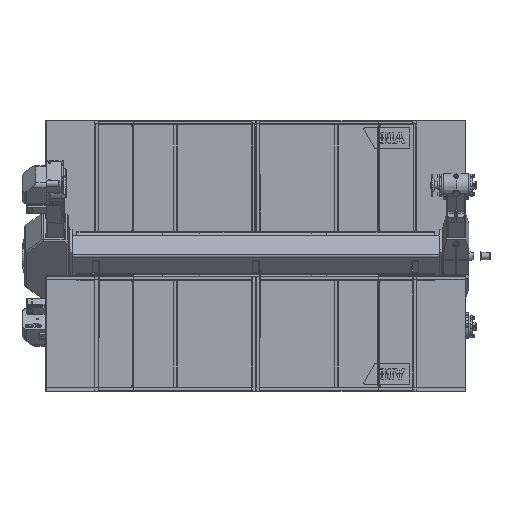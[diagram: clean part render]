
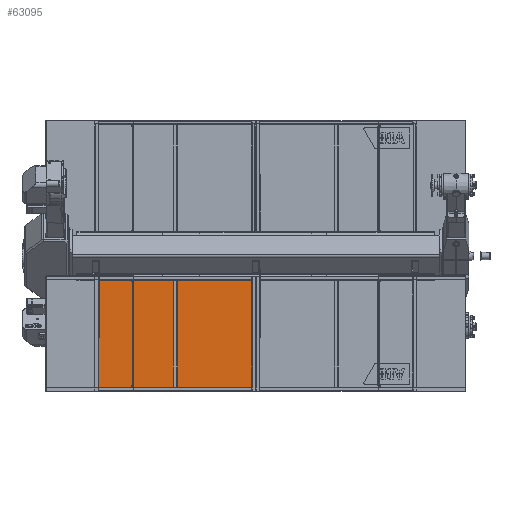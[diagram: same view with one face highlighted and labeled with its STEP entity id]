
A CAD part, left-side view. The second image highlights one B-rep face of the part: STEP entity #63095.
In plain terms, the highlighted planar face has unit normal (-1, 0, 0.002).
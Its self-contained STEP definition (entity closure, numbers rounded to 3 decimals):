
#3323=LINE('',#100845,#8268);
#4655=LINE('',#105473,#9600);
#4657=LINE('',#105477,#9602);
#4665=LINE('',#105538,#9610);
#4671=LINE('',#105548,#9616);
#4678=LINE('',#105562,#9623);
#4679=LINE('',#105563,#9624);
#4680=LINE('',#105565,#9625);
#4681=LINE('',#105567,#9626);
#4682=LINE('',#105568,#9627);
#4683=LINE('',#105569,#9628);
#4684=LINE('',#105570,#9629);
#4685=LINE('',#105573,#9630);
#4686=LINE('',#105575,#9631);
#4687=LINE('',#105577,#9632);
#4688=LINE('',#105578,#9633);
#8268=VECTOR('',#74826,1000.);
#9600=VECTOR('',#78088,1000.);
#9602=VECTOR('',#78090,1000.);
#9610=VECTOR('',#78108,1000.);
#9616=VECTOR('',#78114,1000.);
#9623=VECTOR('',#78127,1000.);
#9624=VECTOR('',#78128,1000.);
#9625=VECTOR('',#78129,1000.);
#9626=VECTOR('',#78130,1000.);
#9627=VECTOR('',#78131,1000.);
#9628=VECTOR('',#78132,1000.);
#9629=VECTOR('',#78133,1000.);
#9630=VECTOR('',#78134,1000.);
#9631=VECTOR('',#78135,1000.);
#9632=VECTOR('',#78136,1000.);
#9633=VECTOR('',#78137,1000.);
#13377=FACE_BOUND('',#18832,.T.);
#14992=FACE_OUTER_BOUND('',#18831,.T.);
#18831=EDGE_LOOP('',(#45180,#45181,#45182,#45183,#45184,#45185,#45186,#45187,
#45188,#45189,#45190,#45191));
#18832=EDGE_LOOP('',(#45192,#45193,#45194,#45195));
#25034=VERTEX_POINT('',#100842);
#25035=VERTEX_POINT('',#100844);
#26079=VERTEX_POINT('',#105470);
#26080=VERTEX_POINT('',#105472);
#26081=VERTEX_POINT('',#105474);
#26082=VERTEX_POINT('',#105476);
#26092=VERTEX_POINT('',#105534);
#26093=VERTEX_POINT('',#105535);
#26094=VERTEX_POINT('',#105537);
#26098=VERTEX_POINT('',#105546);
#26103=VERTEX_POINT('',#105564);
#26104=VERTEX_POINT('',#105566);
#26105=VERTEX_POINT('',#105571);
#26106=VERTEX_POINT('',#105572);
#26107=VERTEX_POINT('',#105574);
#26108=VERTEX_POINT('',#105576);
#31220=EDGE_CURVE('',#25034,#25035,#3323,.T.);
#32922=EDGE_CURVE('',#26079,#26080,#4655,.T.);
#32924=EDGE_CURVE('',#26081,#26082,#4657,.T.);
#32936=EDGE_CURVE('',#26093,#26094,#4665,.T.);
#32942=EDGE_CURVE('',#26098,#26092,#4671,.T.);
#32949=EDGE_CURVE('',#25034,#26080,#4678,.T.);
#32950=EDGE_CURVE('',#26079,#26094,#4679,.T.);
#32951=EDGE_CURVE('',#26103,#26093,#4680,.T.);
#32952=EDGE_CURVE('',#26103,#26104,#4681,.T.);
#32953=EDGE_CURVE('',#26104,#26092,#4682,.T.);
#32954=EDGE_CURVE('',#26098,#26082,#4683,.T.);
#32955=EDGE_CURVE('',#25035,#26081,#4684,.T.);
#32956=EDGE_CURVE('',#26105,#26106,#4685,.T.);
#32957=EDGE_CURVE('',#26106,#26107,#4686,.T.);
#32958=EDGE_CURVE('',#26108,#26107,#4687,.T.);
#32959=EDGE_CURVE('',#26108,#26105,#4688,.T.);
#45180=ORIENTED_EDGE('',*,*,#31220,.F.);
#45181=ORIENTED_EDGE('',*,*,#32949,.T.);
#45182=ORIENTED_EDGE('',*,*,#32922,.F.);
#45183=ORIENTED_EDGE('',*,*,#32950,.T.);
#45184=ORIENTED_EDGE('',*,*,#32936,.F.);
#45185=ORIENTED_EDGE('',*,*,#32951,.F.);
#45186=ORIENTED_EDGE('',*,*,#32952,.T.);
#45187=ORIENTED_EDGE('',*,*,#32953,.T.);
#45188=ORIENTED_EDGE('',*,*,#32942,.F.);
#45189=ORIENTED_EDGE('',*,*,#32954,.T.);
#45190=ORIENTED_EDGE('',*,*,#32924,.F.);
#45191=ORIENTED_EDGE('',*,*,#32955,.F.);
#45192=ORIENTED_EDGE('',*,*,#32956,.T.);
#45193=ORIENTED_EDGE('',*,*,#32957,.T.);
#45194=ORIENTED_EDGE('',*,*,#32958,.F.);
#45195=ORIENTED_EDGE('',*,*,#32959,.T.);
#57002=PLANE('',#67668);
#63095=ADVANCED_FACE('',(#14992,#13377),#57002,.T.);
#67668=AXIS2_PLACEMENT_3D('',#105561,#78125,#78126);
#74826=DIRECTION('',(0.,1.,0.));
#78088=DIRECTION('',(0.,1.,0.));
#78090=DIRECTION('',(0.,1.,0.));
#78108=DIRECTION('',(0.,-1.,0.));
#78114=DIRECTION('',(0.,-1.,0.));
#78125=DIRECTION('center_axis',(-1.,0.,
0.002));
#78126=DIRECTION('ref_axis',(0.,1.,0.));
#78127=DIRECTION('',(-0.002,0.,-1.));
#78128=DIRECTION('',(0.002,0.,1.));
#78129=DIRECTION('',(0.002,0.,1.));
#78130=DIRECTION('',(0.,1.,0.));
#78131=DIRECTION('',(0.002,0.,1.));
#78132=DIRECTION('',(-0.002,0.,-1.));
#78133=DIRECTION('',(-0.002,0.,-1.));
#78134=DIRECTION('',(-0.002,0.,-1.));
#78135=DIRECTION('',(0.,1.,0.));
#78136=DIRECTION('',(-0.002,0.,-1.));
#78137=DIRECTION('',(0.,-1.,0.));
#100842=CARTESIAN_POINT('',(538.108,-1742.5,-1978.321));
#100844=CARTESIAN_POINT('',(538.108,-247.5,-1978.321));
#100845=CARTESIAN_POINT('',(538.108,-1799.649,-1978.321));
#105470=CARTESIAN_POINT('',(538.1,-1747.7,-1983.121));
#105472=CARTESIAN_POINT('',(538.1,-1742.5,-1983.121));
#105473=CARTESIAN_POINT('',(538.1,-1772.5,-1983.121));
#105474=CARTESIAN_POINT('',(538.1,-247.5,-1983.121));
#105476=CARTESIAN_POINT('',(538.1,-242.3,-1983.121));
#105477=CARTESIAN_POINT('',(538.1,-1772.5,-1983.121));
#105534=CARTESIAN_POINT('',(539.959,-247.5,-918.122));
#105535=CARTESIAN_POINT('',(539.959,-1742.5,-918.122));
#105537=CARTESIAN_POINT('',(539.959,-1747.7,-918.122));
#105538=CARTESIAN_POINT('',(539.959,-1772.5,-918.122));
#105546=CARTESIAN_POINT('',(539.959,-242.3,-918.122));
#105548=CARTESIAN_POINT('',(539.959,-1772.5,-918.122));
#105561=CARTESIAN_POINT('Origin',(539.959,-1772.5,-918.122));
#105562=CARTESIAN_POINT('',(538.108,-1742.5,-1978.321));
#105563=CARTESIAN_POINT('',(538.082,-1747.7,-1993.121));
#105564=CARTESIAN_POINT('',(539.95,-1742.5,-922.922));
#105565=CARTESIAN_POINT('',(528.392,-1742.5,-7545.588));
#105566=CARTESIAN_POINT('',(539.95,-247.5,-922.922));
#105567=CARTESIAN_POINT('',(539.95,-1762.5,-922.922));
#105568=CARTESIAN_POINT('',(528.601,-247.5,-7425.726));
#105569=CARTESIAN_POINT('',(539.976,-242.3,-908.122));
#105570=CARTESIAN_POINT('',(538.108,-247.5,-1978.321));
#105571=CARTESIAN_POINT('',(539.941,-1009.8,-928.122));
#105572=CARTESIAN_POINT('',(538.117,-1009.8,-1973.121));
#105573=CARTESIAN_POINT('',(539.976,-1009.8,-908.122));
#105574=CARTESIAN_POINT('',(538.117,-980.2,-1973.121));
#105575=CARTESIAN_POINT('',(538.117,-1009.8,-1973.121));
#105576=CARTESIAN_POINT('',(539.941,-980.2,-928.122));
#105577=CARTESIAN_POINT('',(539.976,-980.2,-908.122));
#105578=CARTESIAN_POINT('',(539.941,-1009.8,-928.122));
